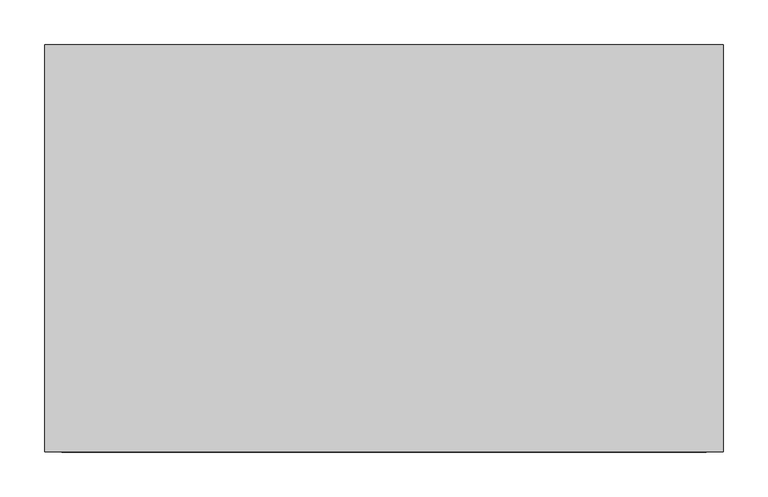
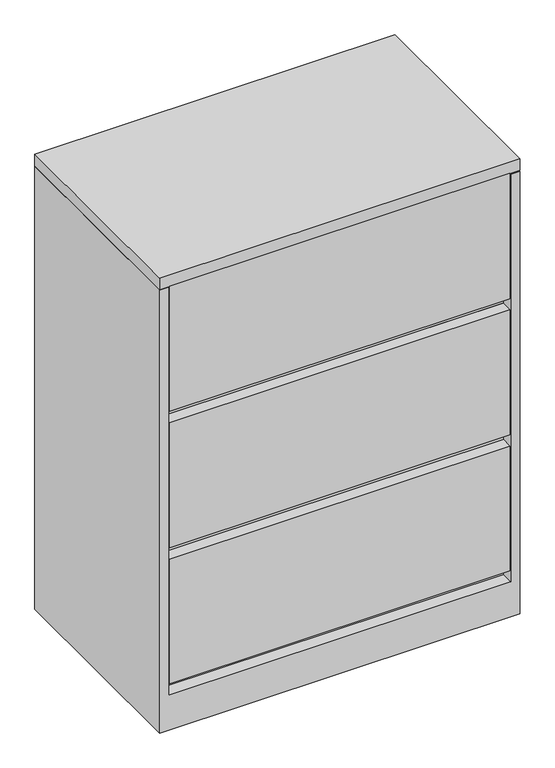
"""IFC4 building model written with IfcOpenShell, lengths in millimetres: furniture geometry, Steelcase - 900 Series - Storage - Lateral File With Roll Out Shelf - Flush Steel : 40H x 30W."""

from ifc_helpers import new_model, si_unit, frame, origin, place, context, project, spatial, polyline, outline, extrude, faceted_brep, source, transform, mapped, element, save


def furniture_2b8b2fa6(model_context):
    return source(origin(), model_context, "Body", "SolidModel", [
        faceted_brep([(742.6960184, -25.2721219, 989.076), (742.6960184, -457.2, 989.076), (762.0, -457.2, 989.076), (762.0, 0.0, 989.076), (0.0, 0.0, 989.076), (0.0, -457.2, 989.076), (19.3039998, -457.2, 989.076), (19.3039998, -25.2721219, 989.076), (0.0, -457.2, 0.0), (0.0, 0.0, 0.0), (762.0, 0.0, 0.0), (762.0, -457.2, 0.0), (742.6960184, -25.2721219, 406.7048), (742.6960184, -431.800255, 406.7048), (742.6960184, -431.800255, 381.254), (742.6960184, -25.2721219, 381.254), (742.6960184, -25.2721219, 103.3780013), (742.6960184, -430.275847, 103.3780013), (742.6960184, -430.275847, 77.9779983), (742.6960184, -457.2, 77.9779983), (19.3039998, -457.2, 77.9779983), (19.3039998, -430.275847, 77.9779983), (19.3039998, -430.275847, 103.3780013), (19.3039998, -25.2721219, 103.3780013), (19.3039998, -25.2721219, 381.254), (19.3039998, -431.800255, 381.254), (19.3039998, -431.800255, 406.7048), (19.3039998, -25.2721219, 406.7048)], [[[0, 1, 2, 3, 4, 5, 6, 7]], [[8, 9, 10, 11]], [[1, 0, 12, 13, 14, 15, 16, 17, 18, 19]], [[2, 1, 19, 20, 6, 5, 8, 11]], [[3, 2, 11, 10]], [[4, 3, 10, 9]], [[5, 4, 9, 8]], [[7, 6, 20, 21, 22, 23, 24, 25, 26, 27]], [[0, 7, 27, 12]], [[16, 15, 24, 23]], [[18, 21, 20, 19]], [[22, 17, 16, 23]], [[21, 18, 17, 22]], [[26, 13, 12, 27]], [[13, 26, 25, 14]], [[14, 25, 24, 15]]]),
        extrude(outline(polyline([(742.6960184, -25.2721219), (742.6960184, -431.800255), (19.3039998, -431.800255), (19.3039998, -25.2721219), (742.6960184, -25.2721219)])), frame((0.0, 0.0, 686.1048), z_axis=(0.0, 0.0, 1.0), x_axis=(1.0, 0.0, 0.0)), (0.0, 0.0, 1.0), 25.4),
        extrude(outline(polyline([(741.1722015, -457.2), (20.8289612, -457.2), (20.8289612, -431.800255), (741.1722015, -431.800255), (741.1722015, -457.2)])), frame((0.0, 0.0, 711.5048), z_axis=(0.0, 0.0, 1.0), x_axis=(1.0, 0.0, 0.0)), (0.0, 0.0, 1.0), 279.4),
        faceted_brep([(762.0, 0.0, 1016.0), (0.0, 0.0, 1016.0), (0.0, -457.2, 1016.0), (762.0, -457.2, 1016.0), (762.0, 0.0, 990.5999516), (762.0, -457.2, 990.5999516), (0.0, -457.2, 990.5999516), (0.0, 0.0, 990.5999516), (742.6960184, -25.2721219, 990.5999516), (20.8289612, -25.2721219, 990.5999516), (20.8289612, -415.9241219, 990.5999516), (742.6960184, -415.9241219, 990.5999516), (742.6960184, -25.2721219, 989.076), (742.6960184, -415.9241219, 989.076), (20.8289612, -415.9241219, 989.076), (20.8289612, -25.2721219, 989.076)], [[[0, 1, 2, 3]], [[4, 5, 6, 7], [8, 9, 10, 11]], [[1, 0, 4, 7]], [[2, 1, 7, 6]], [[3, 2, 6, 5]], [[0, 3, 5, 4]], [[12, 13, 14, 15]], [[12, 15, 9, 8]], [[15, 14, 10, 9]], [[14, 13, 11, 10]], [[13, 12, 8, 11]]]),
        extrude(outline(polyline([(741.1722015, -457.2), (20.8289612, -457.2), (20.8289612, -431.800255), (741.1722015, -431.800255), (741.1722015, -457.2)])), frame((0.0, 0.0, 103.3780013), z_axis=(0.0, 0.0, 1.0), x_axis=(1.0, 0.0, 0.0)), (0.0, 0.0, 1.0), 277.8759987),
        extrude(outline(polyline([(741.1722015, -457.2), (20.8289612, -457.2), (20.8289612, -431.800255), (741.1722015, -431.800255), (741.1722015, -457.2)])), frame((0.0, 0.0, 406.7048), z_axis=(0.0, 0.0, 1.0), x_axis=(1.0, 0.0, 0.0)), (0.0, 0.0, 1.0), 279.4),
    ])


if __name__ == "__main__":
    model = new_model("IFC4")
    model_context = context("Model", 3, world=origin())
    ifc_project = project(units=[si_unit("LENGTHUNIT", "METRE", prefix="MILLI")], contexts=[model_context])
    site = spatial("IfcSite", under=ifc_project)
    building = spatial("IfcBuilding", under=site)
    placement = place(None, origin())
    furniture_shape = furniture_2b8b2fa6(model_context)
    element("IfcFurniture", 1, ObjectType="Steelcase - 900 Series - Storage - Lateral File With Roll Out Shelf - Flush Steel : 40H x 30W", at=placement, inside=building, context=model_context, shape_type="MappedRepresentation", body=[
        mapped(furniture_shape, transform((0.0, 0.0, 0.0), x_axis=(1.0, 0.0, 0.0), y_axis=(0.0, 1.0, 0.0), z_axis=(0.0, 0.0, 1.0))),
    ])
    save(model, "model.ifc")
